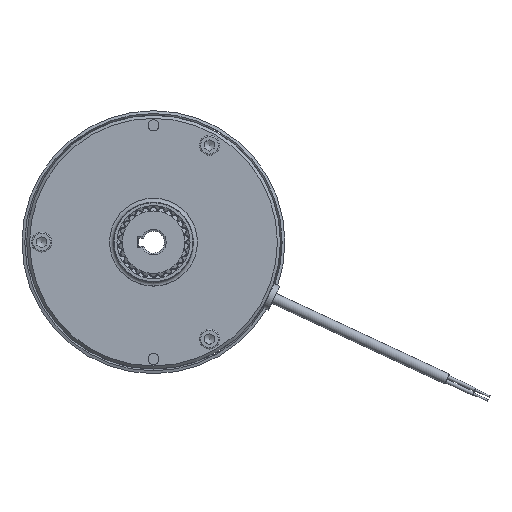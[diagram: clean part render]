
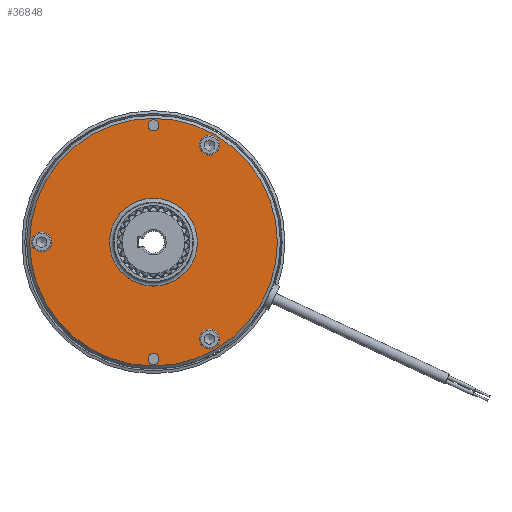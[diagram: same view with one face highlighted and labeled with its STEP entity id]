
A CAD part, left-side view. The second image highlights one B-rep face of the part: STEP entity #36848.
In plain terms, the highlighted planar face has unit normal (-1, 0, 0).
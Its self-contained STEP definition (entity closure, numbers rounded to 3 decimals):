
#713=FACE_BOUND('',#6360,.T.);
#714=FACE_BOUND('',#6361,.T.);
#715=FACE_BOUND('',#6362,.T.);
#716=FACE_BOUND('',#6363,.T.);
#717=FACE_BOUND('',#6364,.T.);
#718=FACE_BOUND('',#6365,.T.);
#1257=PLANE('',#40673);
#4467=FACE_OUTER_BOUND('',#6359,.T.);
#6359=EDGE_LOOP('',(#32290));
#6360=EDGE_LOOP('',(#32291,#32292));
#6361=EDGE_LOOP('',(#32293,#32294));
#6362=EDGE_LOOP('',(#32295,#32296));
#6363=EDGE_LOOP('',(#32297,#32298));
#6364=EDGE_LOOP('',(#32299,#32300));
#6365=EDGE_LOOP('',(#32301));
#12014=CIRCLE('',#40529,5.);
#12015=CIRCLE('',#40530,5.);
#12028=CIRCLE('',#40557,5.);
#12029=CIRCLE('',#40558,5.);
#12042=CIRCLE('',#40585,5.);
#12043=CIRCLE('',#40586,5.);
#12091=CIRCLE('',#40664,2.75);
#12092=CIRCLE('',#40665,2.75);
#12094=CIRCLE('',#40668,2.75);
#12095=CIRCLE('',#40669,2.75);
#12097=CIRCLE('',#40672,62.);
#12098=CIRCLE('',#40674,22.);
#15561=VERTEX_POINT('',#76433);
#15562=VERTEX_POINT('',#76434);
#15588=VERTEX_POINT('',#76525);
#15589=VERTEX_POINT('',#76526);
#15615=VERTEX_POINT('',#76617);
#15616=VERTEX_POINT('',#76618);
#15675=VERTEX_POINT('',#76979);
#15676=VERTEX_POINT('',#76980);
#15678=VERTEX_POINT('',#76987);
#15679=VERTEX_POINT('',#76988);
#15681=VERTEX_POINT('',#76995);
#15682=VERTEX_POINT('',#76999);
#21058=EDGE_CURVE('',#15561,#15562,#12014,.T.);
#21059=EDGE_CURVE('',#15562,#15561,#12015,.T.);
#21095=EDGE_CURVE('',#15588,#15589,#12028,.T.);
#21096=EDGE_CURVE('',#15589,#15588,#12029,.T.);
#21132=EDGE_CURVE('',#15615,#15616,#12042,.T.);
#21133=EDGE_CURVE('',#15616,#15615,#12043,.T.);
#21219=EDGE_CURVE('',#15675,#15676,#12091,.T.);
#21220=EDGE_CURVE('',#15676,#15675,#12092,.T.);
#21223=EDGE_CURVE('',#15678,#15679,#12094,.T.);
#21224=EDGE_CURVE('',#15679,#15678,#12095,.T.);
#21228=EDGE_CURVE('',#15681,#15681,#12097,.T.);
#21229=EDGE_CURVE('',#15682,#15682,#12098,.T.);
#32290=ORIENTED_EDGE('',*,*,#21228,.F.);
#32291=ORIENTED_EDGE('',*,*,#21058,.T.);
#32292=ORIENTED_EDGE('',*,*,#21059,.T.);
#32293=ORIENTED_EDGE('',*,*,#21095,.T.);
#32294=ORIENTED_EDGE('',*,*,#21096,.T.);
#32295=ORIENTED_EDGE('',*,*,#21132,.T.);
#32296=ORIENTED_EDGE('',*,*,#21133,.T.);
#32297=ORIENTED_EDGE('',*,*,#21219,.T.);
#32298=ORIENTED_EDGE('',*,*,#21220,.T.);
#32299=ORIENTED_EDGE('',*,*,#21223,.T.);
#32300=ORIENTED_EDGE('',*,*,#21224,.T.);
#32301=ORIENTED_EDGE('',*,*,#21229,.T.);
#36848=ADVANCED_FACE('',(#4467,#713,#714,#715,#716,#717,#718),#1257,.T.);
#40529=AXIS2_PLACEMENT_3D('',#76435,#49633,#49634);
#40530=AXIS2_PLACEMENT_3D('',#76436,#49635,#49636);
#40557=AXIS2_PLACEMENT_3D('',#76527,#49705,#49706);
#40558=AXIS2_PLACEMENT_3D('',#76528,#49707,#49708);
#40585=AXIS2_PLACEMENT_3D('',#76619,#49777,#49778);
#40586=AXIS2_PLACEMENT_3D('',#76620,#49779,#49780);
#40664=AXIS2_PLACEMENT_3D('',#76981,#49961,#49962);
#40665=AXIS2_PLACEMENT_3D('',#76982,#49963,#49964);
#40668=AXIS2_PLACEMENT_3D('',#76989,#49970,#49971);
#40669=AXIS2_PLACEMENT_3D('',#76990,#49972,#49973);
#40672=AXIS2_PLACEMENT_3D('',#76997,#49980,#49981);
#40673=AXIS2_PLACEMENT_3D('',#76998,#49982,#49983);
#40674=AXIS2_PLACEMENT_3D('',#77000,#49984,#49985);
#49633=DIRECTION('center_axis',(1.,0.,0.));
#49634=DIRECTION('ref_axis',(0.,-0.5,0.866));
#49635=DIRECTION('center_axis',(1.,0.,0.));
#49636=DIRECTION('ref_axis',(0.,-0.5,0.866));
#49705=DIRECTION('center_axis',(1.,0.,0.));
#49706=DIRECTION('ref_axis',(0.,-1.,0.));
#49707=DIRECTION('center_axis',(1.,0.,0.));
#49708=DIRECTION('ref_axis',(0.,-1.,0.));
#49777=DIRECTION('center_axis',(1.,0.,0.));
#49778=DIRECTION('ref_axis',(0.,-0.5,0.866));
#49779=DIRECTION('center_axis',(1.,0.,0.));
#49780=DIRECTION('ref_axis',(0.,-0.5,0.866));
#49961=DIRECTION('center_axis',(1.,0.,0.));
#49962=DIRECTION('ref_axis',(0.,0.,1.));
#49963=DIRECTION('center_axis',(1.,0.,0.));
#49964=DIRECTION('ref_axis',(0.,0.,1.));
#49970=DIRECTION('center_axis',(1.,0.,0.));
#49971=DIRECTION('ref_axis',(0.,0.,1.));
#49972=DIRECTION('center_axis',(1.,0.,0.));
#49973=DIRECTION('ref_axis',(0.,0.,1.));
#49980=DIRECTION('center_axis',(1.,0.,0.));
#49981=DIRECTION('ref_axis',(0.,-1.,0.));
#49982=DIRECTION('center_axis',(-1.,0.,0.));
#49983=DIRECTION('ref_axis',(0.,0.,1.));
#49984=DIRECTION('center_axis',(1.,0.,0.));
#49985=DIRECTION('ref_axis',(0.,0.,1.));
#76433=CARTESIAN_POINT('',(-23.,53.5,4.33));
#76434=CARTESIAN_POINT('',(-23.,58.5,-4.33));
#76435=CARTESIAN_POINT('Origin',(-23.,56.,0.));
#76436=CARTESIAN_POINT('Origin',(-23.,56.,0.));
#76525=CARTESIAN_POINT('',(-23.,-33.,-48.497));
#76526=CARTESIAN_POINT('',(-23.,-23.,-48.497));
#76527=CARTESIAN_POINT('Origin',(-23.,-28.,-48.497));
#76528=CARTESIAN_POINT('Origin',(-23.,-28.,-48.497));
#76617=CARTESIAN_POINT('',(-23.,-30.5,52.828));
#76618=CARTESIAN_POINT('',(-23.,-25.5,44.167));
#76619=CARTESIAN_POINT('Origin',(-23.,-28.,48.497));
#76620=CARTESIAN_POINT('Origin',(-23.,-28.,48.497));
#76979=CARTESIAN_POINT('',(-23.,0.,-55.75));
#76980=CARTESIAN_POINT('',(-23.,0.,-61.25));
#76981=CARTESIAN_POINT('Origin',(-23.,0.,-58.5));
#76982=CARTESIAN_POINT('Origin',(-23.,0.,-58.5));
#76987=CARTESIAN_POINT('',(-23.,0.,61.25));
#76988=CARTESIAN_POINT('',(-23.,0.,55.75));
#76989=CARTESIAN_POINT('Origin',(-23.,0.,58.5));
#76990=CARTESIAN_POINT('Origin',(-23.,0.,58.5));
#76995=CARTESIAN_POINT('',(-23.,62.,0.));
#76997=CARTESIAN_POINT('Origin',(-23.,0.,0.));
#76998=CARTESIAN_POINT('Origin',(-23.,31.75,0.));
#76999=CARTESIAN_POINT('',(-23.,0.,-22.));
#77000=CARTESIAN_POINT('Origin',(-23.,0.,0.));
